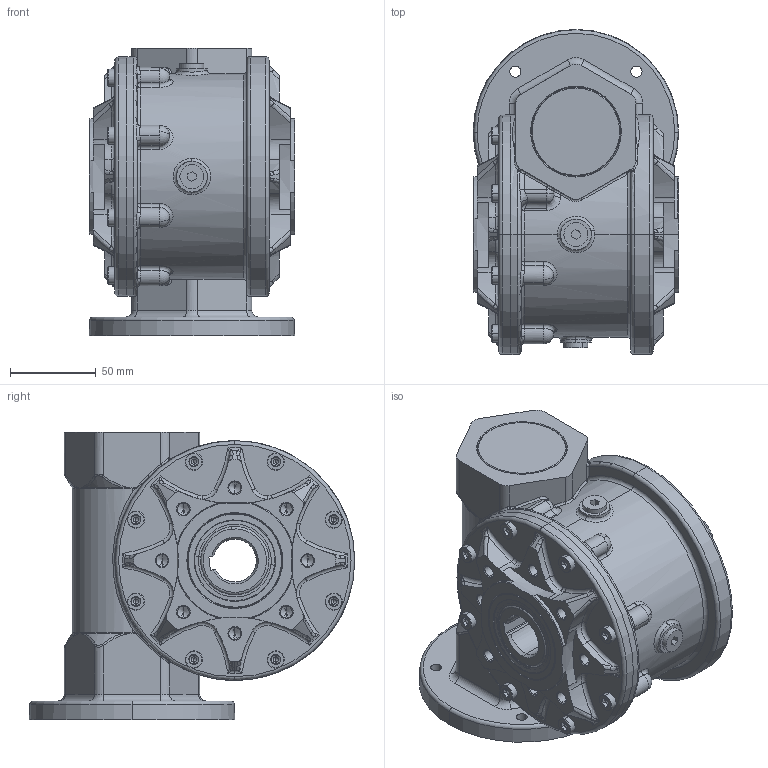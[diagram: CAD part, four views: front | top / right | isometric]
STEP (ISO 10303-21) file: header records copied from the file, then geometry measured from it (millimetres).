
FILE_DESCRIPTION (( 'STEP AP203' ), '1' );
FILE_NAME ('Sestava MRT60A-FT.STEP', '2005-08-15T05:17:51', ( '' ), ( '' ), 'SwSTEP 2.0', 'SolidWorks 2004146', '' );
FILE_SCHEMA (( 'CONFIG_CONTROL_DESIGN' ));
Products named in the file (1): Sestava MRT60A-FT
Bounding box: 120.1 x 190 x 168 mm (x, y, z)
Volume: 1163786.8 mm3; surface area: 379762.2 mm2
Topology: 30 solids, 32 shells, 3116 faces, 7745 edges, 4423 vertices
Faces by surface type: torus 768, cylinder 759, plane 546, cone 516, bspline 381, sphere 146
Entity records: 300231 total; most frequent: CARTESIAN_POINT 230002, DIRECTION 15148, ORIENTED_EDGE 14742, EDGE_CURVE 7371, AXIS2_PLACEMENT_3D 6731, VERTEX_POINT 4311, CIRCLE 3995, EDGE_LOOP 3322
